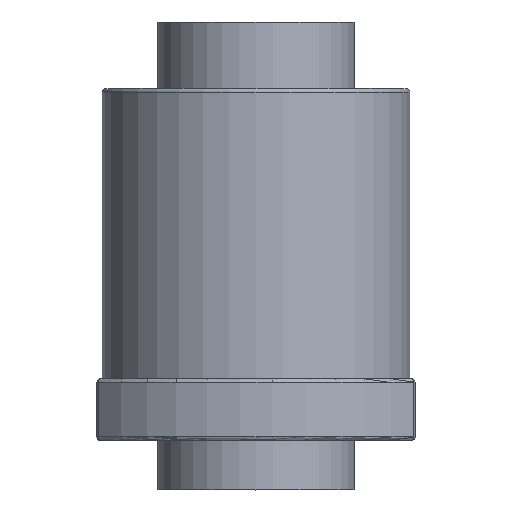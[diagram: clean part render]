
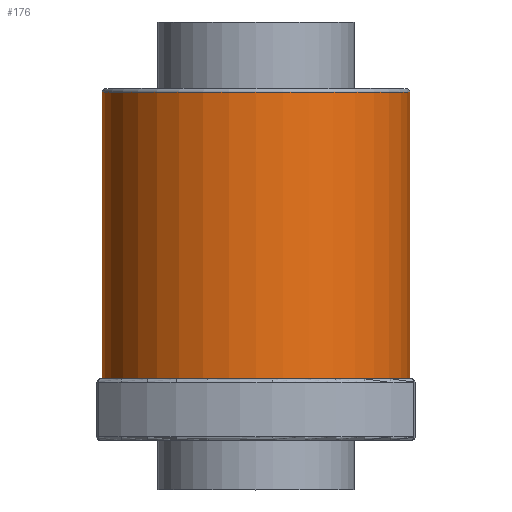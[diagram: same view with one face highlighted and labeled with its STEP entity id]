
A CAD part, top view. The second image highlights one B-rep face of the part: STEP entity #176.
In plain terms, the highlighted cylindrical face has radius 62.5 mm (diameter 125 mm), a full revolution.
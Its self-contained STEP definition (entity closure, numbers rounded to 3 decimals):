
#176=ADVANCED_FACE('',(#264,#265),#229,.T.);
#229=CYLINDRICAL_SURFACE('',#905,62.5);
#264=FACE_BOUND('',#362,.T.);
#265=FACE_BOUND('',#363,.T.);
#362=EDGE_LOOP('',(#486));
#363=EDGE_LOOP('',(#487));
#486=ORIENTED_EDGE('',*,*,#753,.T.);
#487=ORIENTED_EDGE('',*,*,#729,.F.);
#650=VERTEX_POINT('',#1262);
#674=VERTEX_POINT('',#1314);
#729=EDGE_CURVE('',#650,#650,#822,.T.);
#753=EDGE_CURVE('',#674,#674,#840,.T.);
#822=CIRCLE('',#882,62.5);
#840=CIRCLE('',#904,62.5);
#882=AXIS2_PLACEMENT_3D('',#1261,#1014,#1015);
#904=AXIS2_PLACEMENT_3D('',#1313,#1064,#1065);
#905=AXIS2_PLACEMENT_3D('',#1315,#1066,#1067);
#1014=DIRECTION('',(0.,-1.,0.));
#1015=DIRECTION('',(0.,0.,-1.));
#1064=DIRECTION('',(0.,-1.,0.));
#1065=DIRECTION('',(0.,0.,-1.));
#1066=DIRECTION('',(0.,-1.,0.));
#1067=DIRECTION('',(0.,0.,-1.));
#1261=CARTESIAN_POINT('',(0.,25.,0.));
#1262=CARTESIAN_POINT('',(0.,25.,-62.5));
#1313=CARTESIAN_POINT('',(0.,141.5,0.));
#1314=CARTESIAN_POINT('',(0.,141.5,-62.5));
#1315=CARTESIAN_POINT('',(0.,143.,0.));
